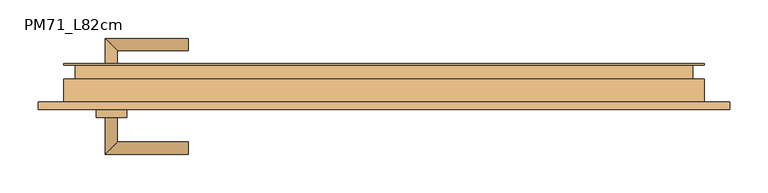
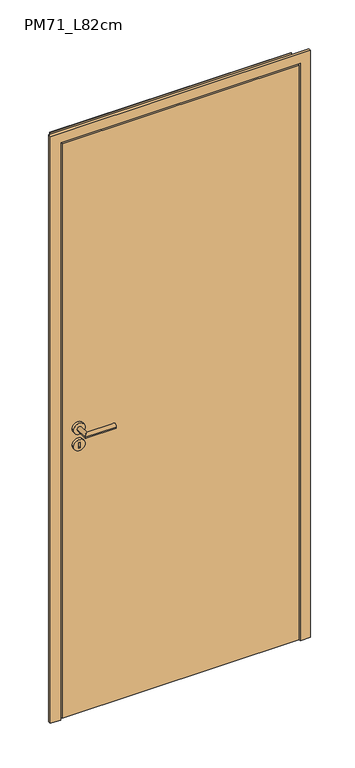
"""IFC4 building model written with IfcOpenShell, lengths in millimetres: door geometry, FDE_PM70_PM71_PM72_PortadeMadeiraSarrafeada_BatenteMetálico : PM71_L82cm."""

from ifc_helpers import new_model, si_unit, point, frame, frame_2d, origin, place, context, project, spatial, polyline, circle_curve, ellipse_curve, trimmed, segment, composite_curve, outline, extrude, faceted_brep, source, transform, mapped, element, save
from ifc_brep_helpers import plane_surface, cylinder_surface, advanced_brep


def pm71_l82cm_dcb64f62(model_context):
    return source(origin(), model_context, "Body", "SolidModel", [
        extrude(outline(composite_curve([segment(trimmed(circle_curve(frame_2d((989.994466, -355.0)), 20.0), [point((989.994466, -375.0))], [point((989.994466, -335.0))], False, "CARTESIAN"), True, "CONTINUOUS"), segment(trimmed(circle_curve(frame_2d((989.994466, -355.0)), 20.0), [point((989.994466, -335.0))], [point((989.994466, -375.0))], False, "CARTESIAN"), True, "CONTINUOUS")], self_intersect=False), holes=[polyline([(1000.1515067, -352.7045566), (980.1515067, -352.7045566), (980.1515067, -357.7045566), (1000.1515067, -357.7045566), (1000.1515067, -352.7045566)])]), frame((0.0, -75.0, 0.0), z_axis=(0.0, 1.0, 0.0), x_axis=(0.0, 0.0, 1.0)), (0.0, 0.0, 1.0), 10.0),
        advanced_brep(
        [(-347.2045566, -75.0, 1050.0), (-363.2045566, -75.0, 1050.0), (-347.2045566, -107.0, 1050.0), (-363.2045566, -123.0, 1050.0), (-255.2045566, -107.0, 1050.0), (-255.2045566, -123.0, 1050.0)],
        [
            (0, 1, circle_curve(frame((-355.2045566, -75.0, 1050.0), z_axis=(0.0, 1.0, 0.0), x_axis=(-1.0, 0.0, 0.0)), 8.0)),
            (1, 0, circle_curve(frame((-355.2045566, -75.0, 1050.0), z_axis=(0.0, 1.0, 0.0), x_axis=(-1.0, 0.0, 0.0)), 8.0)),
            (0, 2),
            (2, 3, ellipse_curve(frame((-355.2045566, -115.0, 1050.0), z_axis=(-0.707106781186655, 0.7071067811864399, 0.0), x_axis=(0.7071067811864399, 0.7071067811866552, 0.0)), 11.3137085, 8.0)),
            (3, 1),
            (3, 2, ellipse_curve(frame((-355.2045566, -115.0, 1050.0), z_axis=(-0.707106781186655, 0.7071067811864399, 0.0), x_axis=(0.7071067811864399, 0.7071067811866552, 0.0)), 11.3137085, 8.0)),
            (4, 5, circle_curve(frame((-255.2045566, -115.0, 1050.0), z_axis=(1.0, 0.0, 0.0), x_axis=(0.0, -1.0, 0.0)), 8.0)),
            (5, 4, circle_curve(frame((-255.2045566, -115.0, 1050.0), z_axis=(1.0, 0.0, 0.0), x_axis=(0.0, -1.0, 0.0)), 8.0)),
            (2, 4),
            (5, 3),
        ],
        [
            plane_surface(frame((-355.2045566, -75.0, 1050.0), z_axis=(0.0, 1.0, 0.0), x_axis=(0.0, 0.0, 1.0))),
            cylinder_surface(frame((-355.2045566, -75.0, 1050.0), z_axis=(0.0, 1.0, 0.0), x_axis=(-1.0, 0.0, 0.0)), 8.0),
            plane_surface(frame((-255.2045566, -115.0, 1050.0), z_axis=(1.0, 0.0, 0.0), x_axis=(0.0, 0.0, 1.0))),
            cylinder_surface(frame((-355.2045566, -115.0, 1050.0), z_axis=(-1.0, 0.0, 0.0), x_axis=(0.0, -1.0, 0.0)), 8.0),
        ],
        [
            (0, [[1, 2]]),
            (1, [[3, 4, 5, -1]]),
            (1, [[-5, 6, -3, -2]]),
            (2, [[7, 8]]),
            (3, [[9, -8, 10, -4]]),
            (3, [[-10, -7, -9, -6]]),
        ],
    ),
        extrude(outline(composite_curve([segment(trimmed(circle_curve(frame_2d((1050.0, -355.0)), 20.0), [point((1050.0, -375.0))], [point((1050.0, -335.0))], False, "CARTESIAN"), True, "CONTINUOUS"), segment(trimmed(circle_curve(frame_2d((1050.0, -355.0)), 20.0), [point((1050.0, -335.0))], [point((1050.0, -375.0))], False, "CARTESIAN"), True, "CONTINUOUS")], self_intersect=False)), frame((0.0, -75.0, 0.0), z_axis=(0.0, 1.0, 0.0), x_axis=(0.0, 0.0, 1.0)), (0.0, 0.0, 1.0), 10.0),
        extrude(outline(composite_curve([segment(trimmed(circle_curve(frame_2d((989.994466, -355.0)), 20.0), [point((989.994466, -375.0))], [point((989.994466, -335.0))], False, "CARTESIAN"), True, "CONTINUOUS"), segment(trimmed(circle_curve(frame_2d((989.994466, -355.0)), 20.0), [point((989.994466, -335.0))], [point((989.994466, -375.0))], False, "CARTESIAN"), True, "CONTINUOUS")], self_intersect=False), holes=[polyline([(1000.1515067, -352.7045566), (980.1515067, -352.7045566), (980.1515067, -357.7045566), (1000.1515067, -357.7045566), (1000.1515067, -352.7045566)])]), frame((0.0, -30.0, 0.0), z_axis=(0.0, 1.0, 0.0), x_axis=(0.0, 0.0, 1.0)), (0.0, 0.0, 1.0), 10.0),
        advanced_brep(
        [(-363.2045566, -20.0, 1050.0), (-347.2045566, -20.0, 1050.0), (-347.2045566, 12.0, 1050.0), (-363.2045566, 28.0, 1050.0), (-255.2045566, 28.0, 1050.0), (-255.2045566, 12.0, 1050.0)],
        [
            (0, 1, circle_curve(frame((-355.2045566, -20.0, 1050.0), z_axis=(0.0, -1.0, 0.0), x_axis=(1.0, 0.0, 0.0)), 8.0)),
            (1, 0, circle_curve(frame((-355.2045566, -20.0, 1050.0), z_axis=(0.0, -1.0, 0.0), x_axis=(1.0, 0.0, 0.0)), 8.0)),
            (1, 2),
            (2, 3, ellipse_curve(frame((-355.2045566, 20.0, 1050.0), z_axis=(-0.7071067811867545, -0.7071067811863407, 0.0), x_axis=(0.7071067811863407, -0.7071067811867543, 0.0)), 11.3137085, 8.0)),
            (3, 0),
            (3, 2, ellipse_curve(frame((-355.2045566, 20.0, 1050.0), z_axis=(-0.7071067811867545, -0.7071067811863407, 0.0), x_axis=(0.7071067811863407, -0.7071067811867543, 0.0)), 11.3137085, 8.0)),
            (4, 5, circle_curve(frame((-255.2045566, 20.0, 1050.0), z_axis=(1.0, 0.0, 0.0), x_axis=(0.0, -1.0, 0.0)), 8.0)),
            (5, 4, circle_curve(frame((-255.2045566, 20.0, 1050.0), z_axis=(1.0, 0.0, 0.0), x_axis=(0.0, -1.0, 0.0)), 8.0)),
            (2, 5),
            (4, 3),
        ],
        [
            plane_surface(frame((-355.2045566, -20.0, 1050.0), z_axis=(0.0, -1.0, 0.0), x_axis=(0.0, 0.0, 1.0))),
            cylinder_surface(frame((-355.2045566, -20.0, 1050.0), z_axis=(0.0, -1.0, 0.0), x_axis=(1.0, 0.0, 0.0)), 8.0),
            plane_surface(frame((-255.2045566, 20.0, 1050.0), z_axis=(1.0, 0.0, 0.0), x_axis=(0.0, 0.0, 1.0))),
            cylinder_surface(frame((-355.2045566, 20.0, 1050.0), z_axis=(-1.0, 0.0, 0.0), x_axis=(0.0, -1.0, 0.0)), 8.0),
        ],
        [
            (0, [[1, 2]]),
            (1, [[3, 4, 5, -2]]),
            (1, [[-5, 6, -3, -1]]),
            (2, [[7, 8]]),
            (3, [[9, -7, 10, -4]]),
            (3, [[-10, -8, -9, -6]]),
        ],
    ),
        extrude(outline(composite_curve([segment(trimmed(circle_curve(frame_2d((1050.0, -355.0)), 20.0), [point((1050.0, -375.0))], [point((1050.0, -335.0))], False, "CARTESIAN"), True, "CONTINUOUS"), segment(trimmed(circle_curve(frame_2d((1050.0, -355.0)), 20.0), [point((1050.0, -335.0))], [point((1050.0, -375.0))], False, "CARTESIAN"), True, "CONTINUOUS")], self_intersect=False)), frame((0.0, -30.0, 0.0), z_axis=(0.0, 1.0, 0.0), x_axis=(0.0, 0.0, 1.0)), (0.0, 0.0, 1.0), 10.0),
        faceted_brep([(-450.0, -65.0, 0.0), (-450.0, -55.0, 0.0), (-448.0, -55.0, 0.0), (-448.0, -63.0, 0.0), (-417.0, -63.0, 0.0), (-417.0, -25.0, 0.0), (-402.0, -25.0, 0.0), (-402.0, -7.0, 0.0), (-417.0, -7.0, 0.0), (-417.0, -5.0, 0.0), (-400.0, -5.0, 0.0), (-400.0, -27.0, 0.0), (-415.0, -27.0, 0.0), (-415.0, -65.0, 0.0), (-450.0, -65.0, 2145.0), (-450.0, -55.0, 2145.0), (450.0, -55.0, 2145.0), (450.0, -55.0, 0.0), (448.0, -55.0, 0.0), (448.0, -55.0, 2143.0), (-448.0, -55.0, 2143.0), (-448.0, -63.0, 2143.0), (448.0, -63.0, 2143.0), (448.0, -63.0, 0.0), (417.0, -63.0, 0.0), (417.0, -63.0, 2112.0), (-417.0, -63.0, 2112.0), (-417.0, -25.0, 2112.0), (417.0, -25.0, 2112.0), (417.0, -25.0, 0.0), (402.0, -25.0, 0.0), (402.0, -25.0, 2097.0), (-402.0, -25.0, 2097.0), (-402.0, -7.0, 2097.0), (402.0, -7.0, 2097.0), (402.0, -7.0, 0.0), (417.0, -7.0, 0.0), (417.0, -7.0, 2112.0), (-417.0, -7.0, 2112.0), (-417.0, -5.0, 2112.0), (417.0, -5.0, 2112.0), (417.0, -5.0, 0.0), (400.0, -5.0, 0.0), (400.0, -5.0, 2095.0), (-400.0, -5.0, 2095.0), (-400.0, -27.0, 2095.0), (400.0, -27.0, 2095.0), (400.0, -27.0, 0.0), (415.0, -27.0, 0.0), (415.0, -27.0, 2110.0), (-415.0, -27.0, 2110.0), (-415.0, -65.0, 2110.0), (415.0, -65.0, 2110.0), (415.0, -65.0, 0.0), (450.0, -65.0, 0.0), (450.0, -65.0, 2145.0)], [[[0, 1, 2, 3, 4, 5, 6, 7, 8, 9, 10, 11, 12, 13]], [[1, 0, 14, 15]], [[2, 1, 15, 16, 17, 18, 19, 20]], [[3, 2, 20, 21]], [[4, 3, 21, 22, 23, 24, 25, 26]], [[5, 4, 26, 27]], [[6, 5, 27, 28, 29, 30, 31, 32]], [[7, 6, 32, 33]], [[8, 7, 33, 34, 35, 36, 37, 38]], [[9, 8, 38, 39]], [[10, 9, 39, 40, 41, 42, 43, 44]], [[11, 10, 44, 45]], [[12, 11, 45, 46, 47, 48, 49, 50]], [[13, 12, 50, 51]], [[0, 13, 51, 52, 53, 54, 55, 14]], [[16, 55, 54, 17]], [[54, 53, 48, 47, 42, 41, 36, 35, 30, 29, 24, 23, 18, 17]], [[22, 19, 18, 23]], [[28, 25, 24, 29]], [[34, 31, 30, 35]], [[40, 37, 36, 41]], [[46, 43, 42, 47]], [[52, 49, 48, 53]], [[15, 14, 55, 16]], [[21, 20, 19, 22]], [[27, 26, 25, 28]], [[33, 32, 31, 34]], [[39, 38, 37, 40]], [[45, 44, 43, 46]], [[51, 50, 49, 52]]]),
        extrude(outline(polyline([(410.0, -65.0), (-410.0, -65.0), (-410.0, -30.0), (410.0, -30.0), (410.0, -65.0)])), frame((0.0, 0.0, 5.0), z_axis=(0.0, 0.0, 1.0), x_axis=(1.0, 0.0, 0.0)), (0.0, 0.0, 1.0), 2100.0),
    ])


if __name__ == "__main__":
    model = new_model("IFC4")
    model_context = context("Model", 3, world=origin())
    ifc_project = project(units=[si_unit("LENGTHUNIT", "METRE", prefix="MILLI")], contexts=[model_context])
    site = spatial("IfcSite", under=ifc_project)
    building = spatial("IfcBuilding", under=site)
    placement = place(None, origin())
    pm71_l82cm_shape = pm71_l82cm_dcb64f62(model_context)
    element("IfcDoor", 1, ObjectType="FDE_PM70_PM71_PM72_PortadeMadeiraSarrafeada_BatenteMetálico : PM71_L82cm", at=placement, inside=building, context=model_context, shape_type="MappedRepresentation", body=[
        mapped(pm71_l82cm_shape, transform((0.0, 0.0, 0.0), x_axis=(1.0, 0.0, 0.0), y_axis=(0.0, 1.0, 0.0), z_axis=(0.0, 0.0, 1.0))),
    ])
    save(model, "model.ifc")
